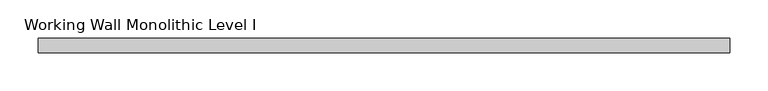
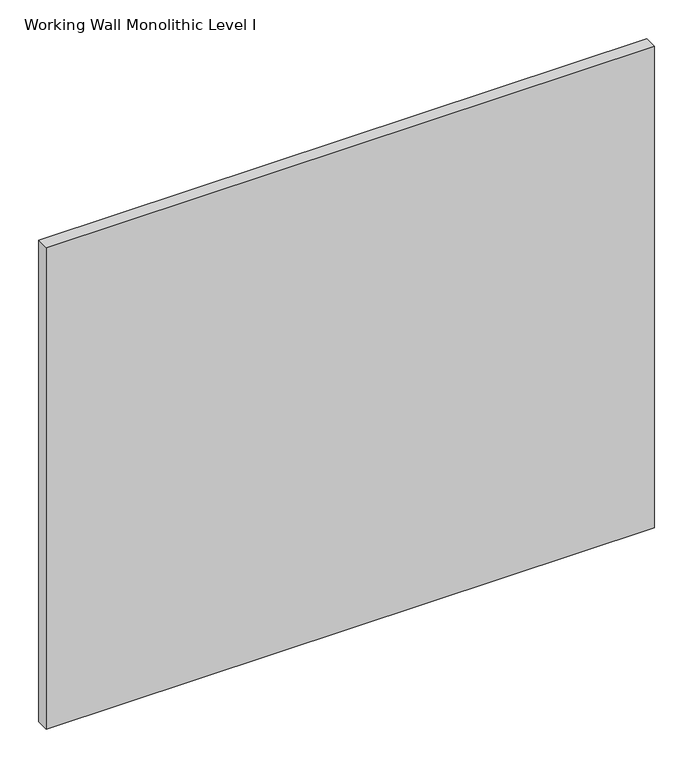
"""IFC4 building model written with IfcOpenShell, lengths in millimetres: proxy geometry, Panel-Fascia-Teknion-Altos : Working Wall Monolithic Level I."""

from ifc_helpers import new_model, si_unit, frame, origin, place, context, project, spatial, polyline, outline, extrude, source, transform, mapped, element, save


def working_wall_monolithic_level_i_72bc8cad(model_context):
    return source(origin(), model_context, "Body", "SweptSolid", [
        extrude(outline(polyline([(454.0305563, -9.525), (-454.0305562, -9.525), (-454.0305562, 9.525), (454.0305563, 9.525), (454.0305563, -9.525)])), frame((0.0, 0.0, 3.175), z_axis=(0.0, 0.0, 1.0), x_axis=(1.0, 0.0, 0.0)), (0.0, 0.0, 1.0), 759.968),
    ])


if __name__ == "__main__":
    model = new_model("IFC4")
    model_context = context("Model", 3, world=origin())
    ifc_project = project(units=[si_unit("LENGTHUNIT", "METRE", prefix="MILLI")], contexts=[model_context])
    site = spatial("IfcSite", under=ifc_project)
    building = spatial("IfcBuilding", under=site)
    placement = place(None, origin())
    working_wall_monolithic_level_i_shape = working_wall_monolithic_level_i_72bc8cad(model_context)
    element("IfcBuildingElementProxy", 1, Name="Panel-Fascia-Teknion-Altos : Working Wall Monolithic Level I", ObjectType="Panel-Fascia-Teknion-Altos : Working Wall Monolithic Level I", at=placement, inside=building, context=model_context, shape_type="MappedRepresentation", body=[
        mapped(working_wall_monolithic_level_i_shape, transform((0.0, 0.0, 0.0), x_axis=(1.0, 0.0, 0.0), y_axis=(0.0, 1.0, 0.0), z_axis=(0.0, 0.0, 1.0))),
    ])
    save(model, "model.ifc")
